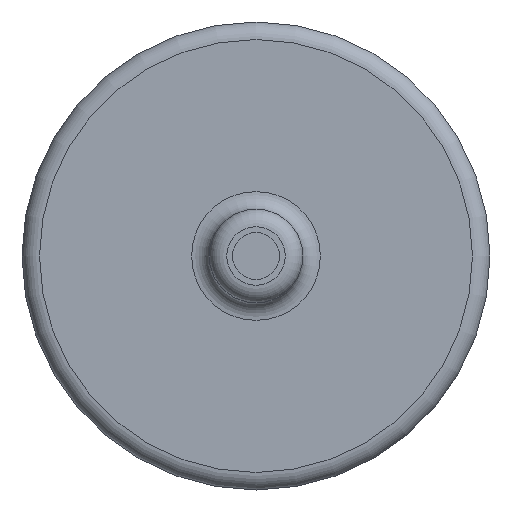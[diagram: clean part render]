
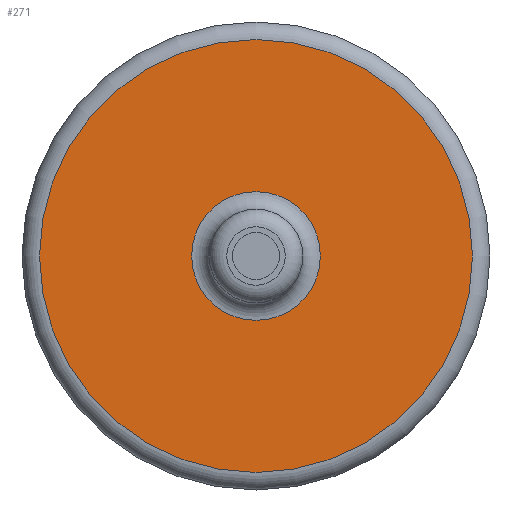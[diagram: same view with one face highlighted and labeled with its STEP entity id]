
A CAD part, left-side view. The second image highlights one B-rep face of the part: STEP entity #271.
In plain terms, the highlighted planar face has unit normal (-1, 0, 0).
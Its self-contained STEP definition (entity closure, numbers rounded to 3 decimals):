
#209=CARTESIAN_POINT('',(27.5,0.0,3.7));
#210=VERTEX_POINT('',#209);
#211=CARTESIAN_POINT('',(27.5,0.0,0.));
#212=DIRECTION('',(1.0,0.0,0.0));
#213=DIRECTION('',(0.0,0.0,-1.0));
#214=AXIS2_PLACEMENT_3D('',#211,#212,#213);
#215=CIRCLE('',#214,3.7);
#216=EDGE_CURVE('',#210,#210,#215,.T.);
#252=CARTESIAN_POINT('',(27.5,0.0,2.4));
#253=DIRECTION('',(1.0,0.0,0.0));
#254=DIRECTION('',(0.0,0.0,-1.0));
#255=AXIS2_PLACEMENT_3D('',#252,#253,#254);
#256=PLANE('',#255);
#257=ORIENTED_EDGE('',*,*,#216,.F.);
#258=EDGE_LOOP('',(#257));
#259=FACE_OUTER_BOUND('',#258,.T.);
#260=CARTESIAN_POINT('',(27.5,0.,1.1));
#261=VERTEX_POINT('',#260);
#262=CARTESIAN_POINT('',(27.5,0.0,0.));
#263=DIRECTION('',(-1.0,0.0,0.0));
#264=DIRECTION('',(0.0,0.0,-1.0));
#265=AXIS2_PLACEMENT_3D('',#262,#263,#264);
#266=CIRCLE('',#265,1.1);
#267=EDGE_CURVE('',#261,#261,#266,.T.);
#268=ORIENTED_EDGE('',*,*,#267,.F.);
#269=EDGE_LOOP('',(#268));
#270=FACE_BOUND('',#269,.T.);
#271=ADVANCED_FACE('',(#259,#270),#256,.F.);
